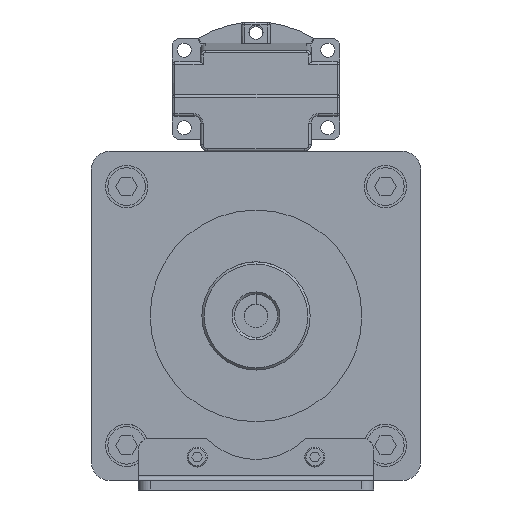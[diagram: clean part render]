
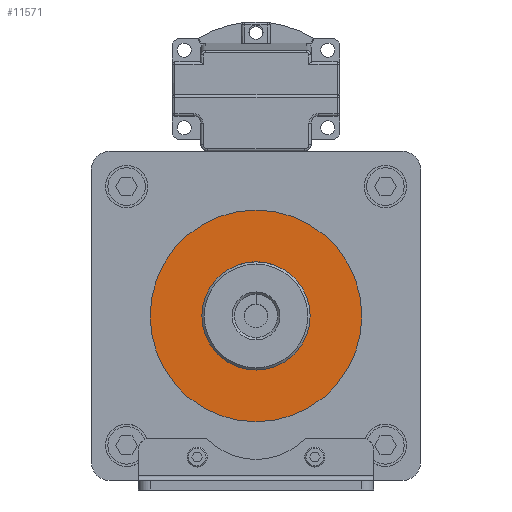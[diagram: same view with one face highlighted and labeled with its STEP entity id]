
A CAD part, front view. The second image highlights one B-rep face of the part: STEP entity #11571.
In plain terms, the highlighted planar face has unit normal (0, -1, 0).
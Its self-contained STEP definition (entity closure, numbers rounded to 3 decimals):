
#141 = DIRECTION ( 'NONE',  ( 0., 0., -1. ) ) ;
#162 = DIRECTION ( 'NONE',  ( 0., -1., 0. ) ) ;
#164 = CARTESIAN_POINT ( 'NONE',  ( 0., -124.5, -70. ) ) ;
#646 = ORIENTED_EDGE ( 'NONE', *, *, #2272, .T. ) ;
#997 = EDGE_CURVE ( 'NONE', #10810, #6475, #13825, .T. ) ;
#1012 = DIRECTION ( 'NONE',  ( 0., 0., -1. ) ) ;
#1268 = DIRECTION ( 'NONE',  ( 0., -1., 0. ) ) ;
#1630 = EDGE_LOOP ( 'NONE', ( #11930, #10763 ) ) ;
#1796 = AXIS2_PLACEMENT_3D ( 'NONE', #164, #162, #141 ) ;
#2193 = VERTEX_POINT ( 'NONE', #9407 ) ;
#2272 = EDGE_CURVE ( 'NONE', #6475, #10810, #6529, .T. ) ;
#4137 = DIRECTION ( 'NONE',  ( 0., -1., 0. ) ) ;
#4999 = AXIS2_PLACEMENT_3D ( 'NONE', #8468, #4137, #11719 ) ;
#5368 = AXIS2_PLACEMENT_3D ( 'NONE', #14122, #7663, #1012 ) ;
#5400 = AXIS2_PLACEMENT_3D ( 'NONE', #8201, #8193, #8188 ) ;
#6475 = VERTEX_POINT ( 'NONE', #7266 ) ;
#6529 = CIRCLE ( 'NONE', #5400, 45. ) ;
#7266 = CARTESIAN_POINT ( 'NONE',  ( 0., -124.5, -115. ) ) ;
#7304 = FACE_BOUND ( 'NONE', #1630, .T. ) ;
#7663 = DIRECTION ( 'NONE',  ( 0., -1., 0. ) ) ;
#7893 = CARTESIAN_POINT ( 'NONE',  ( 0., -124.5, -70. ) ) ;
#7944 = ORIENTED_EDGE ( 'NONE', *, *, #997, .T. ) ;
#8188 = DIRECTION ( 'NONE',  ( 0., 0., -1. ) ) ;
#8193 = DIRECTION ( 'NONE',  ( 0., -1., 0. ) ) ;
#8201 = CARTESIAN_POINT ( 'NONE',  ( 0., -124.5, -70. ) ) ;
#8468 = CARTESIAN_POINT ( 'NONE',  ( 0., -124.5, -115. ) ) ;
#8989 = DIRECTION ( 'NONE',  ( 0., 0., -1. ) ) ;
#9407 = CARTESIAN_POINT ( 'NONE',  ( 0., -124.5, -47. ) ) ;
#10039 = EDGE_CURVE ( 'NONE', #13567, #2193, #10191, .T. ) ;
#10162 = FACE_OUTER_BOUND ( 'NONE', #12060, .T. ) ;
#10191 = CIRCLE ( 'NONE', #5368, 23. ) ;
#10763 = ORIENTED_EDGE ( 'NONE', *, *, #11274, .F. ) ;
#10810 = VERTEX_POINT ( 'NONE', #11742 ) ;
#11274 = EDGE_CURVE ( 'NONE', #2193, #13567, #14209, .T. ) ;
#11571 = ADVANCED_FACE ( 'NONE', ( #10162, #7304 ), #13830, .T. ) ;
#11719 = DIRECTION ( 'NONE',  ( 0., 0., -1. ) ) ;
#11742 = CARTESIAN_POINT ( 'NONE',  ( 0., -124.5, -25. ) ) ;
#11930 = ORIENTED_EDGE ( 'NONE', *, *, #10039, .F. ) ;
#12016 = AXIS2_PLACEMENT_3D ( 'NONE', #7893, #1268, #8989 ) ;
#12060 = EDGE_LOOP ( 'NONE', ( #646, #7944 ) ) ;
#13432 = CARTESIAN_POINT ( 'NONE',  ( 0., -124.5, -93. ) ) ;
#13567 = VERTEX_POINT ( 'NONE', #13432 ) ;
#13825 = CIRCLE ( 'NONE', #1796, 45. ) ;
#13830 = PLANE ( 'NONE',  #4999 ) ;
#14122 = CARTESIAN_POINT ( 'NONE',  ( 0., -124.5, -70. ) ) ;
#14209 = CIRCLE ( 'NONE', #12016, 23. ) ;
